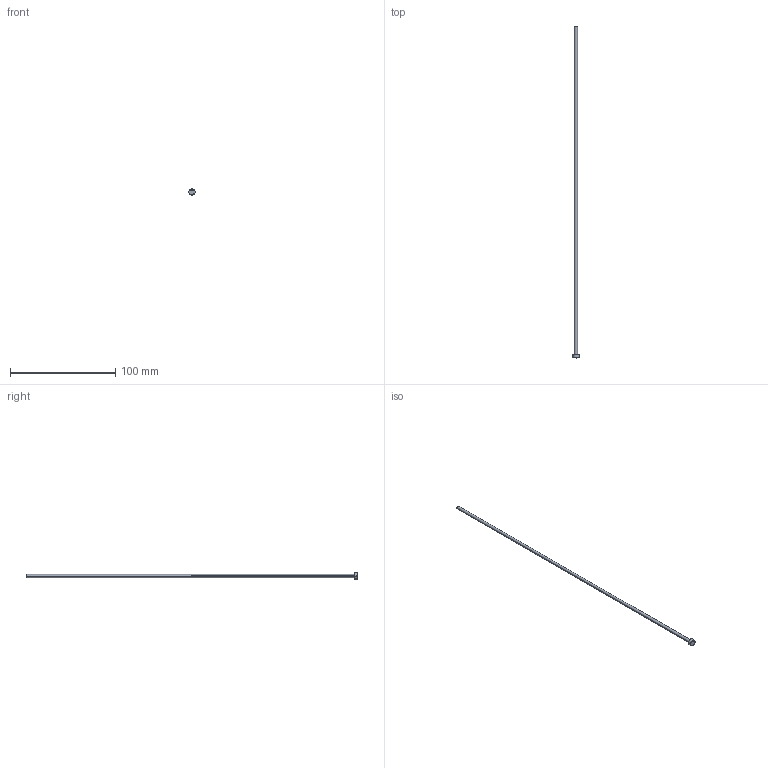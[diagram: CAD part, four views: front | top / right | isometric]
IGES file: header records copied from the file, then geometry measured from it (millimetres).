
Start section: SolidWorks IGES file using analytic representation for surfaces
Global section: file name: C:\Users\User\Downloads\Matripeça 31-08 tar\PB - PINO EXTRATOR TIPO _B_ (CATÁLOGO)\PB03,0\PB03,0315.IGS; native system: SolidWorks 2024; preprocessor: SolidWorks 2024; author: User; date: 260901.141726; units: millimetre
Bounding box: 6 x 315 x 6 mm (x, y, z)
Surface area: 3057.2 mm2 (no closed solid volume)
Topology: 0 solids, 0 shells, 410 faces, 3296 edges, 3296 vertices
Faces by surface type: bspline 396, revolution 14
